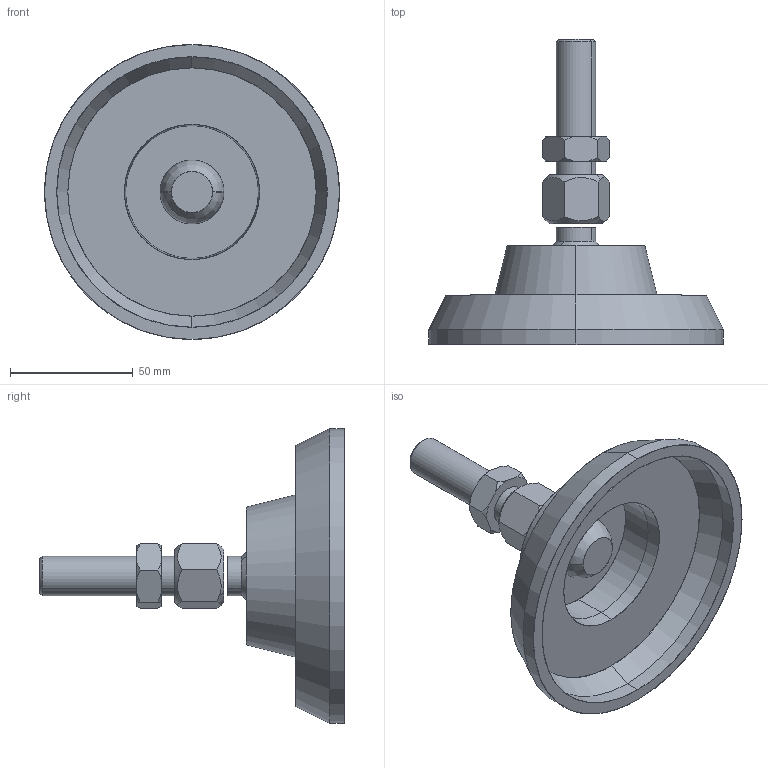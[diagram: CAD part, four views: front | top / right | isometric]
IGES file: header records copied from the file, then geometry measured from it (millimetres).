
Start section: SolidWorks IGES file using analytic representation for surfaces
Global section: file name: C:\Documents and Settings\URETIM3\Desktop\yeni katalog tolgay düzenli\A kataloðu\pabuc,saplama montajlarý\501-505 plastik pabuç ...121\çinko kaplama\export\501 121 610.IGS; native system: SolidWorks 2006 by SolidWorks Corporation; preprocessor: SolidWorks 2006 by SolidWorks Corporation; author: URETIM3; date: 060911.123205; units: millimetre
Bounding box: 120 x 124 x 120 mm (x, y, z)
Surface area: 46895.5 mm2 (no closed solid volume)
Topology: 0 solids, 0 shells, 66 faces, 1292 edges, 1292 vertices
Faces by surface type: revolution 44, bspline 22
